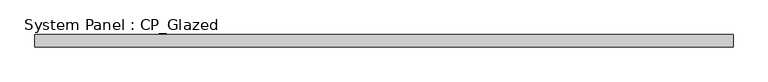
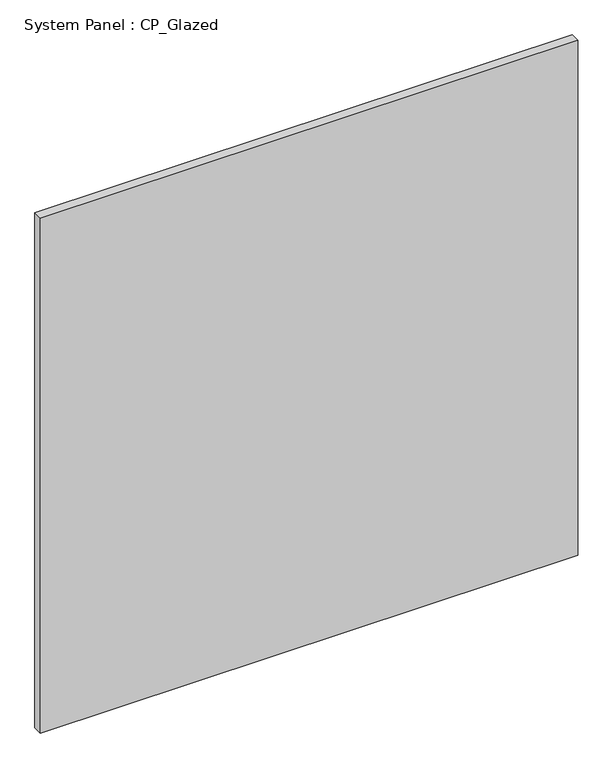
"""IFC4 building model written with IfcOpenShell, lengths in millimetres: plate geometry, System Panel : CP_Glazed."""

from ifc_helpers import new_model, si_unit, origin, origin_with_axes, place, context, project, spatial, polyline, outline, extrude, source, transform, mapped, element, save


def system_panel_cp_glazed_be4cd38d(model_context):
    return source(origin(), model_context, "Body", "SweptSolid", [
        extrude(outline(polyline([(730.7035714, 19.05), (-730.7035714, 19.05), (-730.7035714, 44.45), (730.7035714, 44.45), (730.7035714, 19.05)])), origin_with_axes(), (0.0, 0.0, 1.0), 1479.55),
    ])


if __name__ == "__main__":
    model = new_model("IFC4")
    model_context = context("Model", 3, world=origin())
    ifc_project = project(units=[si_unit("LENGTHUNIT", "METRE", prefix="MILLI")], contexts=[model_context])
    site = spatial("IfcSite", under=ifc_project)
    building = spatial("IfcBuilding", under=site)
    placement = place(None, origin())
    system_panel_cp_glazed_shape = system_panel_cp_glazed_be4cd38d(model_context)
    element("IfcPlate", 1, ObjectType="System Panel : CP_Glazed", at=placement, inside=building, context=model_context, shape_type="MappedRepresentation", body=[
        mapped(system_panel_cp_glazed_shape, transform((0.0, 0.0, 0.0), x_axis=(1.0, 0.0, 0.0), y_axis=(0.0, 1.0, 0.0), z_axis=(0.0, 0.0, 1.0))),
    ])
    save(model, "model.ifc")
